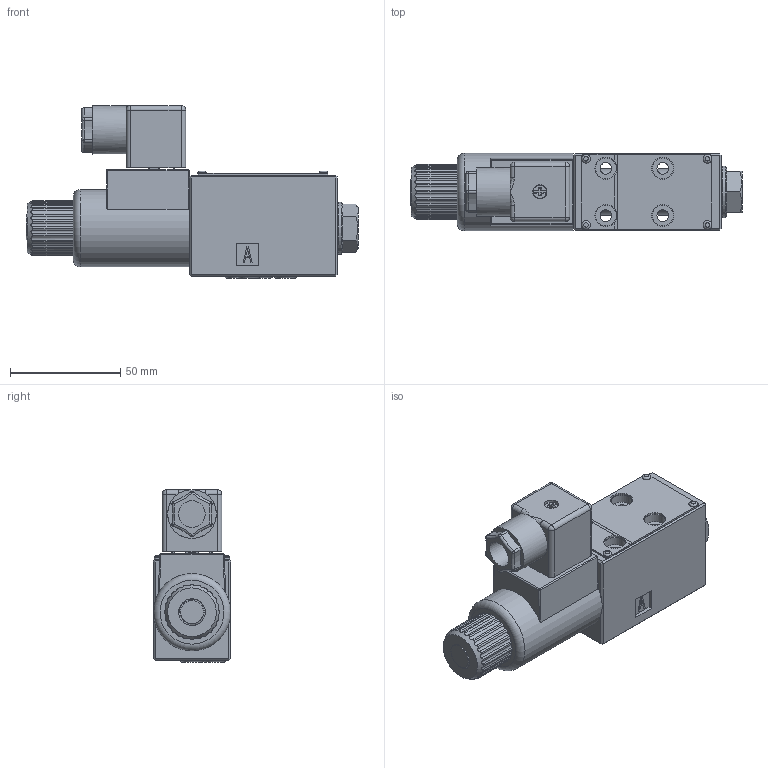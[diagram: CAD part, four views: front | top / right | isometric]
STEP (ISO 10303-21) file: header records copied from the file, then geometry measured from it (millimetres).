
FILE_DESCRIPTION(/* description */ (''),/* implementation_level */ '2;1');
FILE_NAME(/* name */ '4WE5-6XJ直流电磁阀（二位阀电磁铁在A端）.prt.stp',/* time_stamp */ '2022-03-30T19:30:46+08:00',/* author */ (''),/* organization */ (''),/* preprocessor_version */ 'ST-DEVELOPER v16.7',/* originating_system */ 'SIEMENS PLM Software NX 12.0',/* authorisation */ '');
FILE_SCHEMA (('AUTOMOTIVE_DESIGN { 1 0 10303 214 3 1 1 1 }'));
Length unit declared in the file: millimetre
Products named in the file (1): 4WE5-6XJ直流电磁阀（二位阀电磁铁在A
端）
Bounding box: 150.5 x 35 x 78.2 mm (x, y, z)
Volume: 203790 mm3; surface area: 59295.3 mm2
Topology: 19 solids, 19 shells, 578 faces, 1401 edges, 900 vertices
Faces by surface type: plane 243, cylinder 241, extrusion 28, torus 20, bspline 19, sphere 14, cone 13
Full cylindrical faces by diameter (mm): 1.8 x4, 2.2 x4, 2.5 x4, 3 x40, 3.5 x1, 5.3 x4, 5.8 x6, 6 x1, 6.5 x1, 6.9 x7, 8 x1, 8.4 x1, 9 x2, 9.4 x4, 9.8 x1, 10 x8, 12.085 x1, 14.3 x1, 14.5 x1, 16 x2, 17 x1, 17.6 x1, 18 x2, 20 x1, 22 x1, 23 x2, 23.5 x1, 35 x1
Entity records: 34578 total; most frequent: CARTESIAN_POINT 21952, ORIENTED_EDGE 2250, DIRECTION 2240, EDGE_CURVE 1125, AXIS2_PLACEMENT_3D 828, VERTEX_POINT 777, EDGE_LOOP 698, VECTOR 584
